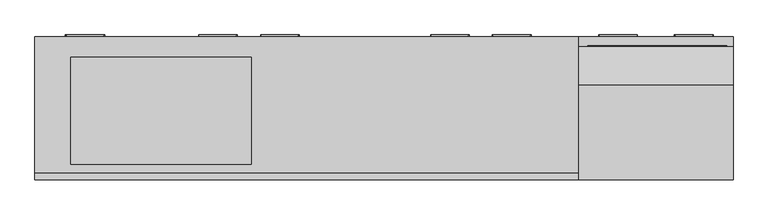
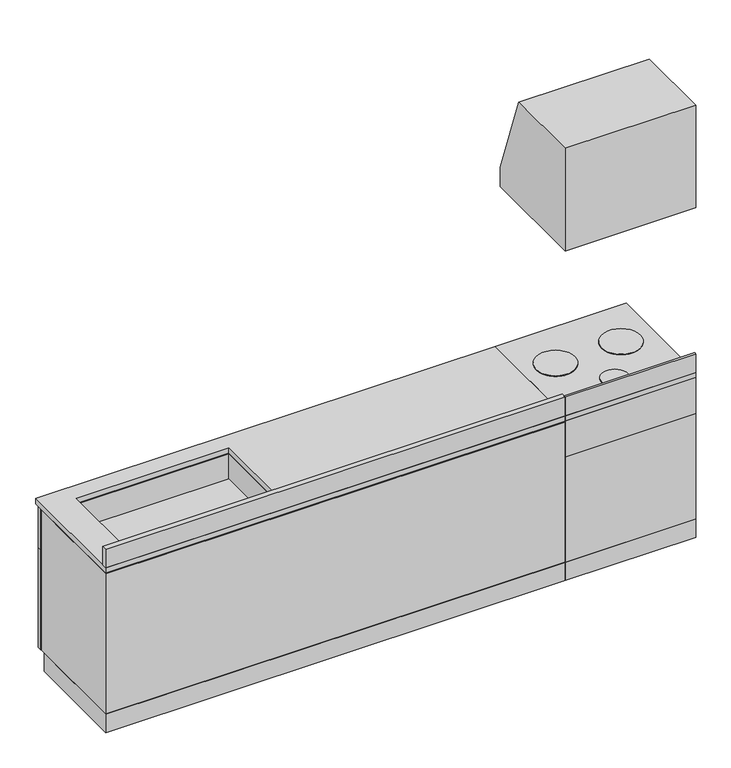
"""IFC4 building model written with IfcOpenShell, lengths in millimetres: flow terminal geometry."""

from ifc_helpers import new_model, si_unit, point, frame, frame_2d, origin, place, context, project, spatial, polyline, circle_curve, ellipse_curve, trimmed, segment, composite_curve, outline, extrude, faceted_brep, source, transform, mapped, element, save
from ifc_brep_helpers import plane_surface, cylinder_surface, advanced_brep


def flow_terminal_4e89506a(model_context):
    return source(origin(), model_context, "Body", "SolidModel", [
        extrude(outline(polyline([(0.0, 1600.0), (0.0, 2099.0082413), (369.4428062, 2099.0082413), (516.4897805, 1695.0), (516.4897805, 1600.0), (0.0, 1600.0)])), frame((-600.0, 0.0, 0.0), z_axis=(1.0, 0.0, 0.0), x_axis=(0.0, 1.0, 0.0)), (0.0, 0.0, 1.0), 600.0),
        extrude(outline(polyline([(-24.5306616, 520.5154649), (-24.5306616, 516.4897805), (-564.5306616, 516.4897805), (-564.5306616, 520.5154649), (-24.5306616, 520.5154649)])), frame((0.0, 0.0, 1619.5443084), z_axis=(0.0, 0.0, 1.0), x_axis=(1.0, 0.0, 0.0)), (0.0, 0.0, 1.0), 40.0),
        extrude(outline(polyline([(0.0, 0.0), (-600.0, 0.0), (-600.0, 9.8381791), (0.0, 9.8381791), (0.0, 0.0)])), frame((0.0, 0.0, 800.0), z_axis=(0.0, 0.0, 1.0), x_axis=(1.0, 0.0, 0.0)), (0.0, 0.0, 1.0), 90.0),
        extrude(outline(polyline([(0.0, 0.0), (-600.0, 0.0), (-600.0, 540.0), (0.0, 540.0), (0.0, 0.0)])), frame((0.0, 0.0, 600.0), z_axis=(0.0, 0.0, 1.0), x_axis=(1.0, 0.0, 0.0)), (0.0, 0.0, 1.0), 175.0),
        faceted_brep([(0.0, 0.0, 600.0), (0.0, 516.4897805, 600.0), (-600.0, 516.4897805, 600.0), (-600.0, 0.0, 600.0), (-600.0, 0.0, 88.5), (-600.0, 540.0, 88.5), (-307.8169644, 540.0, 88.5), (-307.8169644, 516.4897805, 88.5), (-292.8169644, 516.4897805, 88.5), (-292.8169644, 540.0, 88.5), (0.0, 540.0, 88.5), (0.0, 0.0, 88.5), (-600.0, 516.4897805, 590.0), (-600.0, 540.0, 590.0), (-292.8169644, 540.0, 590.0), (0.0, 540.0, 590.0), (-307.8169644, 540.0, 590.0), (0.0, 516.4897805, 590.0), (-307.8169644, 516.4897805, 590.0), (-292.8169644, 516.4897805, 590.0)], [[[0, 1, 2, 3]], [[4, 5, 6, 7, 8, 9, 10, 11]], [[4, 3, 2, 12, 13, 5]], [[9, 14, 15, 10]], [[5, 13, 16, 6]], [[10, 15, 17, 1, 0, 11]], [[3, 4, 11, 0]], [[18, 12, 2, 1, 17, 19, 8, 7]], [[18, 16, 13, 12]], [[17, 15, 14, 19]], [[19, 14, 9, 8]], [[7, 6, 16, 18]]]),
        extrude(outline(composite_curve([segment(trimmed(circle_curve(frame_2d((-300.0, 124.5419688)), 60.0), [point((-360.0, 124.5419688))], [point((-240.0, 124.5419688))], False, "CARTESIAN"), True, "CONTINUOUS"), segment(trimmed(circle_curve(frame_2d((-300.0, 124.5419688)), 60.0), [point((-240.0, 124.5419688))], [point((-360.0, 124.5419688))], False, "CARTESIAN"), True, "CONTINUOUS")], self_intersect=False)), frame((0.0, 0.0, 800.0), z_axis=(0.0, 0.0, 1.0), x_axis=(1.0, 0.0, 0.0)), (0.0, 0.0, 1.0), 3.4559593),
        extrude(outline(composite_curve([segment(trimmed(circle_curve(frame_2d((-152.4677396, 331.6593351)), 89.0934112), [point((-241.5611508, 331.6593351))], [point((-63.3743285, 331.6593351))], False, "CARTESIAN"), True, "CONTINUOUS"), segment(trimmed(circle_curve(frame_2d((-152.4677396, 331.6593351)), 89.0934112), [point((-63.3743285, 331.6593351))], [point((-241.5611508, 331.6593351))], False, "CARTESIAN"), True, "CONTINUOUS")], self_intersect=False)), frame((0.0, 0.0, 800.0), z_axis=(0.0, 0.0, 1.0), x_axis=(1.0, 0.0, 0.0)), (0.0, 0.0, 1.0), 3.4559593),
        extrude(outline(composite_curve([segment(trimmed(circle_curve(frame_2d((-452.4677396, 331.6593351)), 89.0934112), [point((-541.5611508, 331.6593351))], [point((-363.3743285, 331.6593351))], False, "CARTESIAN"), True, "CONTINUOUS"), segment(trimmed(circle_curve(frame_2d((-452.4677396, 331.6593351)), 89.0934112), [point((-363.3743285, 331.6593351))], [point((-541.5611508, 331.6593351))], False, "CARTESIAN"), True, "CONTINUOUS")], self_intersect=False)), frame((0.0, 0.0, 800.0), z_axis=(0.0, 0.0, 1.0), x_axis=(1.0, 0.0, 0.0)), (0.0, 0.0, 1.0), 3.4559593),
        extrude(outline(polyline([(0.0, 0.0), (-600.0, 0.0), (-600.0, 555.0), (0.0, 555.0), (0.0, 0.0)])), frame((0.0, 0.0, 775.0), z_axis=(0.0, 0.0, 1.0), x_axis=(1.0, 0.0, 0.0)), (0.0, 0.0, 1.0), 25.0),
        advanced_brep(
        [(-227.6629348, 537.5962435, 549.478406), (-217.6629348, 537.5962435, 549.478406), (-217.6629348, 552.5962435, 549.478406), (-227.6629348, 562.5962435, 549.478406), (-87.6629348, 552.5962435, 549.478406), (-77.6629348, 562.5962435, 549.478406), (-77.6629348, 537.5962435, 549.478406), (-87.6629348, 537.5962435, 549.478406)],
        [
            (0, 1, circle_curve(frame((-222.6629348, 537.5962435, 549.478406), z_axis=(0.0, -1.0, 0.0), x_axis=(1.0, 0.0, 0.0)), 5.0)),
            (1, 0, circle_curve(frame((-222.6629348, 537.5962435, 549.478406), z_axis=(0.0, -1.0, 0.0), x_axis=(1.0, 0.0, 0.0)), 5.0)),
            (1, 2),
            (2, 3, ellipse_curve(frame((-222.6629348, 557.5962435, 549.478406), z_axis=(-0.7071067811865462, -0.7071067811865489, 0.0), x_axis=(0.707106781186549, -0.707106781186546, 0.0)), 7.0710678, 5.0)),
            (3, 0),
            (3, 2, ellipse_curve(frame((-222.6629348, 557.5962435, 549.478406), z_axis=(-0.7071067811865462, -0.7071067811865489, 0.0), x_axis=(0.707106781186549, -0.707106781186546, 0.0)), 7.0710678, 5.0)),
            (2, 4),
            (4, 5, ellipse_curve(frame((-82.6629348, 557.5962435, 549.478406), z_axis=(-0.7071067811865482, 0.7071067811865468, 0.0), x_axis=(-0.7071067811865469, -0.7071067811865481, 0.0)), 7.0710678, 5.0)),
            (5, 3),
            (5, 4, ellipse_curve(frame((-82.6629348, 557.5962435, 549.478406), z_axis=(-0.7071067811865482, 0.7071067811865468, 0.0), x_axis=(-0.7071067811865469, -0.7071067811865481, 0.0)), 7.0710678, 5.0)),
            (6, 7, circle_curve(frame((-82.6629348, 537.5962435, 549.478406), z_axis=(0.0, -1.0, 0.0), x_axis=(-1.0, 0.0, 0.0)), 5.0)),
            (7, 6, circle_curve(frame((-82.6629348, 537.5962435, 549.478406), z_axis=(0.0, -1.0, 0.0), x_axis=(-1.0, 0.0, 0.0)), 5.0)),
            (4, 7),
            (6, 5),
        ],
        [
            plane_surface(frame((-222.6629348, 537.5962435, 0.0), z_axis=(0.0, -1.0, 0.0), x_axis=(0.0, 0.0, 1.0))),
            cylinder_surface(frame((-222.6629348, 537.5962435, 549.478406), z_axis=(0.0, -1.0, 0.0), x_axis=(1.0, 0.0, 0.0)), 5.0),
            cylinder_surface(frame((-222.6629348, 557.5962435, 549.478406), z_axis=(-1.0, 0.0, 0.0), x_axis=(0.0, -1.0, 0.0)), 5.0),
            plane_surface(frame((-82.6629348, 537.5962435, 0.0), z_axis=(0.0, -1.0, 0.0), x_axis=(0.0, 0.0, 1.0))),
            cylinder_surface(frame((-82.6629348, 557.5962435, 549.478406), z_axis=(0.0, 1.0, 0.0), x_axis=(-1.0, 0.0, 0.0)), 5.0),
        ],
        [
            (0, [[1, 2]]),
            (1, [[3, 4, 5, -2]]),
            (1, [[-5, 6, -3, -1]]),
            (2, [[7, 8, 9, -4]]),
            (2, [[-9, 10, -7, -6]]),
            (3, [[11, 12]]),
            (4, [[13, -11, 14, -8]]),
            (4, [[-14, -12, -13, -10]]),
        ],
    ),
        advanced_brep(
        [(-522.1659599, 537.5962435, 552.9843944), (-512.1659599, 537.5962435, 552.9843944), (-512.1659599, 552.5962435, 552.9843944), (-522.1659599, 562.5962435, 552.9843944), (-382.1659599, 552.5962435, 552.9843944), (-372.1659599, 562.5962435, 552.9843944), (-372.1659599, 537.5962435, 552.9843944), (-382.1659599, 537.5962435, 552.9843944)],
        [
            (0, 1, circle_curve(frame((-517.1659599, 537.5962435, 552.9843944), z_axis=(0.0, -1.0, 0.0), x_axis=(1.0, 0.0, 0.0)), 5.0)),
            (1, 0, circle_curve(frame((-517.1659599, 537.5962435, 552.9843944), z_axis=(0.0, -1.0, 0.0), x_axis=(1.0, 0.0, 0.0)), 5.0)),
            (1, 2),
            (2, 3, ellipse_curve(frame((-517.1659599, 557.5962435, 552.9843944), z_axis=(-0.7071067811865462, -0.7071067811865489, 0.0), x_axis=(0.707106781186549, -0.707106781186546, 0.0)), 7.0710678, 5.0)),
            (3, 0),
            (3, 2, ellipse_curve(frame((-517.1659599, 557.5962435, 552.9843944), z_axis=(-0.7071067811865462, -0.7071067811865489, 0.0), x_axis=(0.707106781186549, -0.707106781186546, 0.0)), 7.0710678, 5.0)),
            (2, 4),
            (4, 5, ellipse_curve(frame((-377.1659599, 557.5962435, 552.9843944), z_axis=(-0.7071067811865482, 0.7071067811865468, 0.0), x_axis=(-0.7071067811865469, -0.7071067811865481, 0.0)), 7.0710678, 5.0)),
            (5, 3),
            (5, 4, ellipse_curve(frame((-377.1659599, 557.5962435, 552.9843944), z_axis=(-0.7071067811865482, 0.7071067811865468, 0.0), x_axis=(-0.7071067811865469, -0.7071067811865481, 0.0)), 7.0710678, 5.0)),
            (6, 7, circle_curve(frame((-377.1659599, 537.5962435, 552.9843944), z_axis=(0.0, -1.0, 0.0), x_axis=(-1.0, 0.0, 0.0)), 5.0)),
            (7, 6, circle_curve(frame((-377.1659599, 537.5962435, 552.9843944), z_axis=(0.0, -1.0, 0.0), x_axis=(-1.0, 0.0, 0.0)), 5.0)),
            (4, 7),
            (6, 5),
        ],
        [
            plane_surface(frame((-517.1659599, 537.5962435, 0.0), z_axis=(0.0, -1.0, 0.0), x_axis=(0.0, 0.0, 1.0))),
            cylinder_surface(frame((-517.1659599, 537.5962435, 552.9843944), z_axis=(0.0, -1.0, 0.0), x_axis=(1.0, 0.0, 0.0)), 5.0),
            cylinder_surface(frame((-517.1659599, 557.5962435, 552.9843944), z_axis=(-1.0, 0.0, 0.0), x_axis=(0.0, -1.0, 0.0)), 5.0),
            plane_surface(frame((-377.1659599, 537.5962435, 0.0), z_axis=(0.0, -1.0, 0.0), x_axis=(0.0, 0.0, 1.0))),
            cylinder_surface(frame((-377.1659599, 557.5962435, 552.9843944), z_axis=(0.0, 1.0, 0.0), x_axis=(-1.0, 0.0, 0.0)), 5.0),
        ],
        [
            (0, [[1, 2]]),
            (1, [[3, 4, 5, -2]]),
            (1, [[-5, 6, -3, -1]]),
            (2, [[7, 8, 9, -4]]),
            (2, [[-9, 10, -7, -6]]),
            (3, [[11, 12]]),
            (4, [[13, -11, 14, -8]]),
            (4, [[-14, -12, -13, -10]]),
        ],
    ),
        extrude(outline(polyline([(0.0, 0.0), (-600.0, 0.0), (-600.0, 490.0), (0.0, 490.0), (0.0, 0.0)])), frame((0.0, 0.0, -0.5), z_axis=(0.0, 0.0, 1.0), x_axis=(1.0, 0.0, 0.0)), (0.0, 0.0, 1.0), 89.0),
        extrude(outline(polyline([(-2710.0, 0.0), (-2710.0, 25.0), (-600.0, 25.0), (-600.0, 0.0), (-2710.0, 0.0)])), frame((0.0, 0.0, 800.0), z_axis=(0.0, 0.0, 1.0), x_axis=(1.0, 0.0, 0.0)), (0.0, 0.0, 1.0), 90.0),
        extrude(outline(polyline([(-2710.0, 0.0), (-2710.0, 490.0), (-600.0, 490.0), (-600.0, 0.0), (-2710.0, 0.0)])), frame((0.0, 0.0, -0.5), z_axis=(0.0, 0.0, 1.0), x_axis=(1.0, 0.0, 0.0)), (0.0, 0.0, 1.0), 89.0),
        extrude(outline(polyline([(-1877.9, 516.4897805), (-1877.9, 536.4897805), (-1432.9, 536.4897805), (-1432.9, 516.4897805), (-1877.9, 516.4897805)])), frame((0.0, 0.0, 89.0), z_axis=(0.0, 0.0, 1.0), x_axis=(1.0, 0.0, 0.0)), (0.0, 0.0, 1.0), 681.0),
        extrude(outline(polyline([(-2328.4, 516.4897805), (-2328.4, 536.4897805), (-1881.0543583, 536.4897805), (-1881.0543583, 516.4897805), (-2328.4, 516.4897805)])), frame((0.0, 0.0, 89.0), z_axis=(0.0, 0.0, 1.0), x_axis=(1.0, 0.0, 0.0)), (0.0, 0.0, 1.0), 681.0),
        extrude(outline(polyline([(-2710.0, 536.4897805), (-2332.9, 536.4897805), (-2332.9, 516.4897805), (-2710.0, 516.4897805), (-2710.0, 536.4897805)])), frame((0.0, 0.0, 575.0), z_axis=(0.0, 0.0, 1.0), x_axis=(1.0, 0.0, 0.0)), (0.0, 0.0, 1.0), 195.0),
        extrude(outline(polyline([(-2710.0, 536.4897805), (-2332.9, 536.4897805), (-2332.9, 516.4897805), (-2710.0, 516.4897805), (-2710.0, 536.4897805)])), frame((0.0, 0.0, 89.5), z_axis=(0.0, 0.0, 1.0), x_axis=(1.0, 0.0, 0.0)), (0.0, 0.0, 1.0), 484.284389),
        advanced_brep(
        [(-1684.3239278, 537.5962435, 714.2598605), (-1694.3239278, 537.5962435, 714.2598605), (-1684.3239278, 562.5962435, 714.2598605), (-1694.3239278, 552.5962435, 714.2598605), (-1834.3239278, 562.5962435, 714.2598605), (-1824.3239278, 552.5962435, 714.2598605), (-1834.3239278, 537.5962435, 714.2598605), (-1824.3239278, 537.5962435, 714.2598605)],
        [
            (0, 1, circle_curve(frame((-1689.3239278, 537.5962435, 714.2598605), z_axis=(0.0, -1.0, 0.0), x_axis=(-1.0, 0.0, 0.0)), 5.0)),
            (1, 0, circle_curve(frame((-1689.3239278, 537.5962435, 714.2598605), z_axis=(0.0, -1.0, 0.0), x_axis=(-1.0, 0.0, 0.0)), 5.0)),
            (0, 2),
            (2, 3, ellipse_curve(frame((-1689.3239278, 557.5962435, 714.2598605), z_axis=(0.7071067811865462, -0.7071067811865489, 0.0), x_axis=(-0.707106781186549, -0.707106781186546, 0.0)), 7.0710678, 5.0)),
            (3, 1),
            (3, 2, ellipse_curve(frame((-1689.3239278, 557.5962435, 714.2598605), z_axis=(0.7071067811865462, -0.7071067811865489, 0.0), x_axis=(-0.707106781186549, -0.707106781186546, 0.0)), 7.0710678, 5.0)),
            (2, 4),
            (4, 5, ellipse_curve(frame((-1829.3239278, 557.5962435, 714.2598605), z_axis=(0.7071067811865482, 0.7071067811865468, 0.0), x_axis=(0.7071067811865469, -0.7071067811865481, 0.0)), 7.0710678, 5.0)),
            (5, 3),
            (5, 4, ellipse_curve(frame((-1829.3239278, 557.5962435, 714.2598605), z_axis=(0.7071067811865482, 0.7071067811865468, 0.0), x_axis=(0.7071067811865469, -0.7071067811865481, 0.0)), 7.0710678, 5.0)),
            (6, 7, circle_curve(frame((-1829.3239278, 537.5962435, 714.2598605), z_axis=(0.0, -1.0, 0.0), x_axis=(1.0, 0.0, 0.0)), 5.0)),
            (7, 6, circle_curve(frame((-1829.3239278, 537.5962435, 714.2598605), z_axis=(0.0, -1.0, 0.0), x_axis=(1.0, 0.0, 0.0)), 5.0)),
            (4, 6),
            (7, 5),
        ],
        [
            plane_surface(frame((-1689.3239278, 537.5962435, 0.0), z_axis=(0.0, -1.0, 0.0), x_axis=(0.0, 0.0, 1.0))),
            cylinder_surface(frame((-1689.3239278, 537.5962435, 714.2598605), z_axis=(0.0, -1.0, 0.0), x_axis=(-1.0, 0.0, 0.0)), 5.0),
            cylinder_surface(frame((-1689.3239278, 557.5962435, 714.2598605), z_axis=(1.0, 0.0, 0.0), x_axis=(0.0, -1.0, 0.0)), 5.0),
            plane_surface(frame((-1829.3239278, 537.5962435, 0.0), z_axis=(0.0, -1.0, 0.0), x_axis=(0.0, 0.0, 1.0))),
            cylinder_surface(frame((-1829.3239278, 557.5962435, 714.2598605), z_axis=(0.0, 1.0, 0.0), x_axis=(1.0, 0.0, 0.0)), 5.0),
        ],
        [
            (0, [[1, 2]]),
            (1, [[-1, 3, 4, 5]]),
            (1, [[-2, -5, 6, -3]]),
            (2, [[-4, 7, 8, 9]]),
            (2, [[-6, -9, 10, -7]]),
            (3, [[11, 12]]),
            (4, [[-8, 13, -12, 14]]),
            (4, [[-10, -14, -11, -13]]),
        ],
    ),
        advanced_brep(
        [(-1924.3239278, 537.5962435, 714.2598605), (-1934.3239278, 537.5962435, 714.2598605), (-1924.3239278, 562.5962435, 714.2598605), (-1934.3239278, 552.5962435, 714.2598605), (-2074.3239278, 562.5962435, 714.2598605), (-2064.3239278, 552.5962435, 714.2598605), (-2074.3239278, 537.5962435, 714.2598605), (-2064.3239278, 537.5962435, 714.2598605)],
        [
            (0, 1, circle_curve(frame((-1929.3239278, 537.5962435, 714.2598605), z_axis=(0.0, -1.0, 0.0), x_axis=(-1.0, 0.0, 0.0)), 5.0)),
            (1, 0, circle_curve(frame((-1929.3239278, 537.5962435, 714.2598605), z_axis=(0.0, -1.0, 0.0), x_axis=(-1.0, 0.0, 0.0)), 5.0)),
            (0, 2),
            (2, 3, ellipse_curve(frame((-1929.3239278, 557.5962435, 714.2598605), z_axis=(0.7071067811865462, -0.7071067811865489, 0.0), x_axis=(-0.707106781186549, -0.707106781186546, 0.0)), 7.0710678, 5.0)),
            (3, 1),
            (3, 2, ellipse_curve(frame((-1929.3239278, 557.5962435, 714.2598605), z_axis=(0.7071067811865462, -0.7071067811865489, 0.0), x_axis=(-0.707106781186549, -0.707106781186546, 0.0)), 7.0710678, 5.0)),
            (2, 4),
            (4, 5, ellipse_curve(frame((-2069.3239278, 557.5962435, 714.2598605), z_axis=(0.7071067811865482, 0.7071067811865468, 0.0), x_axis=(0.7071067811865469, -0.7071067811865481, 0.0)), 7.0710678, 5.0)),
            (5, 3),
            (5, 4, ellipse_curve(frame((-2069.3239278, 557.5962435, 714.2598605), z_axis=(0.7071067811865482, 0.7071067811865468, 0.0), x_axis=(0.7071067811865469, -0.7071067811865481, 0.0)), 7.0710678, 5.0)),
            (6, 7, circle_curve(frame((-2069.3239278, 537.5962435, 714.2598605), z_axis=(0.0, -1.0, 0.0), x_axis=(1.0, 0.0, 0.0)), 5.0)),
            (7, 6, circle_curve(frame((-2069.3239278, 537.5962435, 714.2598605), z_axis=(0.0, -1.0, 0.0), x_axis=(1.0, 0.0, 0.0)), 5.0)),
            (4, 6),
            (7, 5),
        ],
        [
            plane_surface(frame((-1929.3239278, 537.5962435, 0.0), z_axis=(0.0, -1.0, 0.0), x_axis=(0.0, 0.0, 1.0))),
            cylinder_surface(frame((-1929.3239278, 537.5962435, 714.2598605), z_axis=(0.0, -1.0, 0.0), x_axis=(-1.0, 0.0, 0.0)), 5.0),
            cylinder_surface(frame((-1929.3239278, 557.5962435, 714.2598605), z_axis=(1.0, 0.0, 0.0), x_axis=(0.0, -1.0, 0.0)), 5.0),
            plane_surface(frame((-2069.3239278, 537.5962435, 0.0), z_axis=(0.0, -1.0, 0.0), x_axis=(0.0, 0.0, 1.0))),
            cylinder_surface(frame((-2069.3239278, 557.5962435, 714.2598605), z_axis=(0.0, 1.0, 0.0), x_axis=(1.0, 0.0, 0.0)), 5.0),
        ],
        [
            (0, [[1, 2]]),
            (1, [[-1, 3, 4, 5]]),
            (1, [[-2, -5, 6, -3]]),
            (2, [[-4, 7, 8, 9]]),
            (2, [[-6, -9, 10, -7]]),
            (3, [[11, 12]]),
            (4, [[-8, 13, -12, 14]]),
            (4, [[-10, -14, -11, -13]]),
        ],
    ),
        advanced_brep(
        [(-2439.3239278, 537.5962435, 714.2598605), (-2449.3239278, 537.5962435, 714.2598605), (-2439.3239278, 562.5962435, 714.2598605), (-2449.3239278, 552.5962435, 714.2598605), (-2589.3239278, 562.5962435, 714.2598605), (-2579.3239278, 552.5962435, 714.2598605), (-2589.3239278, 537.5962435, 714.2598605), (-2579.3239278, 537.5962435, 714.2598605)],
        [
            (0, 1, circle_curve(frame((-2444.3239278, 537.5962435, 714.2598605), z_axis=(0.0, -1.0, 0.0), x_axis=(-1.0, 0.0, 0.0)), 5.0)),
            (1, 0, circle_curve(frame((-2444.3239278, 537.5962435, 714.2598605), z_axis=(0.0, -1.0, 0.0), x_axis=(-1.0, 0.0, 0.0)), 5.0)),
            (0, 2),
            (2, 3, ellipse_curve(frame((-2444.3239278, 557.5962435, 714.2598605), z_axis=(0.7071067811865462, -0.7071067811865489, 0.0), x_axis=(-0.707106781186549, -0.707106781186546, 0.0)), 7.0710678, 5.0)),
            (3, 1),
            (3, 2, ellipse_curve(frame((-2444.3239278, 557.5962435, 714.2598605), z_axis=(0.7071067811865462, -0.7071067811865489, 0.0), x_axis=(-0.707106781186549, -0.707106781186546, 0.0)), 7.0710678, 5.0)),
            (2, 4),
            (4, 5, ellipse_curve(frame((-2584.3239278, 557.5962435, 714.2598605), z_axis=(0.7071067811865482, 0.7071067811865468, 0.0), x_axis=(0.7071067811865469, -0.7071067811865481, 0.0)), 7.0710678, 5.0)),
            (5, 3),
            (5, 4, ellipse_curve(frame((-2584.3239278, 557.5962435, 714.2598605), z_axis=(0.7071067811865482, 0.7071067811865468, 0.0), x_axis=(0.7071067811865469, -0.7071067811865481, 0.0)), 7.0710678, 5.0)),
            (6, 7, circle_curve(frame((-2584.3239278, 537.5962435, 714.2598605), z_axis=(0.0, -1.0, 0.0), x_axis=(1.0, 0.0, 0.0)), 5.0)),
            (7, 6, circle_curve(frame((-2584.3239278, 537.5962435, 714.2598605), z_axis=(0.0, -1.0, 0.0), x_axis=(1.0, 0.0, 0.0)), 5.0)),
            (4, 6),
            (7, 5),
        ],
        [
            plane_surface(frame((-2444.3239278, 537.5962435, 0.0), z_axis=(0.0, -1.0, 0.0), x_axis=(0.0, 0.0, 1.0))),
            cylinder_surface(frame((-2444.3239278, 537.5962435, 714.2598605), z_axis=(0.0, -1.0, 0.0), x_axis=(-1.0, 0.0, 0.0)), 5.0),
            cylinder_surface(frame((-2444.3239278, 557.5962435, 714.2598605), z_axis=(1.0, 0.0, 0.0), x_axis=(0.0, -1.0, 0.0)), 5.0),
            plane_surface(frame((-2584.3239278, 537.5962435, 0.0), z_axis=(0.0, -1.0, 0.0), x_axis=(0.0, 0.0, 1.0))),
            cylinder_surface(frame((-2584.3239278, 557.5962435, 714.2598605), z_axis=(0.0, 1.0, 0.0), x_axis=(1.0, 0.0, 0.0)), 5.0),
        ],
        [
            (0, [[1, 2]]),
            (1, [[-1, 3, 4, 5]]),
            (1, [[-2, -5, 6, -3]]),
            (2, [[-4, 7, 8, 9]]),
            (2, [[-6, -9, 10, -7]]),
            (3, [[11, 12]]),
            (4, [[-8, 13, -12, 14]]),
            (4, [[-10, -14, -11, -13]]),
        ],
    ),
        advanced_brep(
        [(-2441.3479102, 537.5962435, 514.8721474), (-2451.3479102, 537.5962435, 514.8721474), (-2441.3479102, 562.5962435, 514.8721474), (-2451.3479102, 552.5962435, 514.8721474), (-2591.3479102, 562.5962435, 514.8721474), (-2581.3479102, 552.5962435, 514.8721474), (-2591.3479102, 537.5962435, 514.8721474), (-2581.3479102, 537.5962435, 514.8721474)],
        [
            (0, 1, circle_curve(frame((-2446.3479102, 537.5962435, 514.8721474), z_axis=(0.0, -1.0, 0.0), x_axis=(-1.0, 0.0, 0.0)), 5.0)),
            (1, 0, circle_curve(frame((-2446.3479102, 537.5962435, 514.8721474), z_axis=(0.0, -1.0, 0.0), x_axis=(-1.0, 0.0, 0.0)), 5.0)),
            (0, 2),
            (2, 3, ellipse_curve(frame((-2446.3479102, 557.5962435, 514.8721474), z_axis=(0.7071067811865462, -0.7071067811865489, 0.0), x_axis=(-0.707106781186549, -0.707106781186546, 0.0)), 7.0710678, 5.0)),
            (3, 1),
            (3, 2, ellipse_curve(frame((-2446.3479102, 557.5962435, 514.8721474), z_axis=(0.7071067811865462, -0.7071067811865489, 0.0), x_axis=(-0.707106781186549, -0.707106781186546, 0.0)), 7.0710678, 5.0)),
            (2, 4),
            (4, 5, ellipse_curve(frame((-2586.3479102, 557.5962435, 514.8721474), z_axis=(0.7071067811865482, 0.7071067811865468, 0.0), x_axis=(0.7071067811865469, -0.7071067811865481, 0.0)), 7.0710678, 5.0)),
            (5, 3),
            (5, 4, ellipse_curve(frame((-2586.3479102, 557.5962435, 514.8721474), z_axis=(0.7071067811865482, 0.7071067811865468, 0.0), x_axis=(0.7071067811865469, -0.7071067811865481, 0.0)), 7.0710678, 5.0)),
            (6, 7, circle_curve(frame((-2586.3479102, 537.5962435, 514.8721474), z_axis=(0.0, -1.0, 0.0), x_axis=(1.0, 0.0, 0.0)), 5.0)),
            (7, 6, circle_curve(frame((-2586.3479102, 537.5962435, 514.8721474), z_axis=(0.0, -1.0, 0.0), x_axis=(1.0, 0.0, 0.0)), 5.0)),
            (4, 6),
            (7, 5),
        ],
        [
            plane_surface(frame((-2446.3479102, 537.5962435, -199.3877131), z_axis=(0.0, -1.0, 0.0), x_axis=(0.0, 0.0, 1.0))),
            cylinder_surface(frame((-2446.3479102, 537.5962435, 514.8721474), z_axis=(0.0, -1.0, 0.0), x_axis=(-1.0, 0.0, 0.0)), 5.0),
            cylinder_surface(frame((-2446.3479102, 557.5962435, 514.8721474), z_axis=(1.0, 0.0, 0.0), x_axis=(0.0, -1.0, 0.0)), 5.0),
            plane_surface(frame((-2586.3479102, 537.5962435, -199.3877131), z_axis=(0.0, -1.0, 0.0), x_axis=(0.0, 0.0, 1.0))),
            cylinder_surface(frame((-2586.3479102, 557.5962435, 514.8721474), z_axis=(0.0, 1.0, 0.0), x_axis=(1.0, 0.0, 0.0)), 5.0),
        ],
        [
            (0, [[1, 2]]),
            (1, [[-1, 3, 4, 5]]),
            (1, [[-2, -5, 6, -3]]),
            (2, [[-4, 7, 8, 9]]),
            (2, [[-6, -9, 10, -7]]),
            (3, [[11, 12]]),
            (4, [[-8, 13, -12, 14]]),
            (4, [[-10, -14, -11, -13]]),
        ],
    ),
        extrude(outline(polyline([(-2710.0, 0.0), (-2710.0, 555.0), (-600.0, 555.0), (-600.0, 0.0), (-2710.0, 0.0)]), holes=[polyline([(-2570.5, 61.4897805), (-1870.5, 61.4897805), (-1870.5, 476.3747196), (-2570.5, 476.3747196), (-2570.5, 61.4897805)])]), frame((0.0, 0.0, 775.0), z_axis=(0.0, 0.0, 1.0), x_axis=(1.0, 0.0, 0.0)), (0.0, 0.0, 1.0), 25.0),
        extrude(outline(polyline([(-2710.0, 0.0), (-2710.0, 508.8242978), (-600.0, 508.8242978), (-600.0, 0.0), (-2710.0, 0.0)]), holes=[polyline([(-2675.8267278, 25.0), (-1259.0724026, 25.0), (-1259.0724026, 490.0), (-2675.8267278, 490.0), (-2675.8267278, 25.0)])]), frame((0.0, 0.0, 90.0), z_axis=(0.0, 0.0, 1.0), x_axis=(1.0, 0.0, 0.0)), (0.0, 0.0, 1.0), 680.0),
        faceted_brep([(-2675.8267278, 25.0, 770.0), (-600.0, 25.0, 770.0), (-600.0, 490.0, 770.0), (-2675.8267278, 490.0, 770.0), (-1870.5, 61.4897805, 770.0), (-2570.5, 61.4897805, 770.0), (-2570.5, 476.3747196, 770.0), (-1870.5, 476.3747196, 770.0), (-2675.8267278, 25.0, 481.2861972), (-2675.8267278, 490.0, 481.2861972), (-600.0, 490.0, 481.2861972), (-600.0, 25.0, 481.2861972), (-2570.5, 61.4897805, 650.0), (-1870.5, 61.4897805, 650.0), (-1870.5, 476.3747196, 650.0), (-2570.5, 476.3747196, 650.0)], [[[0, 1, 2, 3], [4, 5, 6, 7]], [[8, 9, 10, 11]], [[1, 0, 8, 11]], [[2, 1, 11, 10]], [[3, 2, 10, 9]], [[0, 3, 9, 8]], [[12, 13, 14, 15]], [[13, 12, 5, 4]], [[14, 13, 4, 7]], [[15, 14, 7, 6]], [[12, 15, 6, 5]]]),
        extrude(outline(polyline([(-977.9, 516.4897805), (-977.9, 536.4897805), (-600.0, 536.4897805), (-600.0, 516.4897805), (-977.9, 516.4897805)])), frame((0.0, 0.0, 89.0), z_axis=(0.0, 0.0, 1.0), x_axis=(1.0, 0.0, 0.0)), (0.0, 0.0, 1.0), 681.0),
        extrude(outline(polyline([(-1428.4, 516.4897805), (-1428.4, 536.4897805), (-981.0543583, 536.4897805), (-981.0543583, 516.4897805), (-1428.4, 516.4897805)])), frame((0.0, 0.0, 89.0), z_axis=(0.0, 0.0, 1.0), x_axis=(1.0, 0.0, 0.0)), (0.0, 0.0, 1.0), 681.0),
        advanced_brep(
        [(-784.3239278, 537.5962435, 714.2598605), (-794.3239278, 537.5962435, 714.2598605), (-784.3239278, 562.5962435, 714.2598605), (-794.3239278, 552.5962435, 714.2598605), (-934.3239278, 562.5962435, 714.2598605), (-924.3239278, 552.5962435, 714.2598605), (-934.3239278, 537.5962435, 714.2598605), (-924.3239278, 537.5962435, 714.2598605)],
        [
            (0, 1, circle_curve(frame((-789.3239278, 537.5962435, 714.2598605), z_axis=(0.0, -1.0, 0.0), x_axis=(-1.0, 0.0, 0.0)), 5.0)),
            (1, 0, circle_curve(frame((-789.3239278, 537.5962435, 714.2598605), z_axis=(0.0, -1.0, 0.0), x_axis=(-1.0, 0.0, 0.0)), 5.0)),
            (0, 2),
            (2, 3, ellipse_curve(frame((-789.3239278, 557.5962435, 714.2598605), z_axis=(0.7071067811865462, -0.7071067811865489, 0.0), x_axis=(-0.707106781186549, -0.707106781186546, 0.0)), 7.0710678, 5.0)),
            (3, 1),
            (3, 2, ellipse_curve(frame((-789.3239278, 557.5962435, 714.2598605), z_axis=(0.7071067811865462, -0.7071067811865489, 0.0), x_axis=(-0.707106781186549, -0.707106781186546, 0.0)), 7.0710678, 5.0)),
            (2, 4),
            (4, 5, ellipse_curve(frame((-929.3239278, 557.5962435, 714.2598605), z_axis=(0.7071067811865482, 0.7071067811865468, 0.0), x_axis=(0.7071067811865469, -0.7071067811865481, 0.0)), 7.0710678, 5.0)),
            (5, 3),
            (5, 4, ellipse_curve(frame((-929.3239278, 557.5962435, 714.2598605), z_axis=(0.7071067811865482, 0.7071067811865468, 0.0), x_axis=(0.7071067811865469, -0.7071067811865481, 0.0)), 7.0710678, 5.0)),
            (6, 7, circle_curve(frame((-929.3239278, 537.5962435, 714.2598605), z_axis=(0.0, -1.0, 0.0), x_axis=(1.0, 0.0, 0.0)), 5.0)),
            (7, 6, circle_curve(frame((-929.3239278, 537.5962435, 714.2598605), z_axis=(0.0, -1.0, 0.0), x_axis=(1.0, 0.0, 0.0)), 5.0)),
            (4, 6),
            (7, 5),
        ],
        [
            plane_surface(frame((-789.3239278, 537.5962435, 0.0), z_axis=(0.0, -1.0, 0.0), x_axis=(0.0, 0.0, 1.0))),
            cylinder_surface(frame((-789.3239278, 537.5962435, 714.2598605), z_axis=(0.0, -1.0, 0.0), x_axis=(-1.0, 0.0, 0.0)), 5.0),
            cylinder_surface(frame((-789.3239278, 557.5962435, 714.2598605), z_axis=(1.0, 0.0, 0.0), x_axis=(0.0, -1.0, 0.0)), 5.0),
            plane_surface(frame((-929.3239278, 537.5962435, 0.0), z_axis=(0.0, -1.0, 0.0), x_axis=(0.0, 0.0, 1.0))),
            cylinder_surface(frame((-929.3239278, 557.5962435, 714.2598605), z_axis=(0.0, 1.0, 0.0), x_axis=(1.0, 0.0, 0.0)), 5.0),
        ],
        [
            (0, [[1, 2]]),
            (1, [[-1, 3, 4, 5]]),
            (1, [[-2, -5, 6, -3]]),
            (2, [[-4, 7, 8, 9]]),
            (2, [[-6, -9, 10, -7]]),
            (3, [[11, 12]]),
            (4, [[-8, 13, -12, 14]]),
            (4, [[-10, -14, -11, -13]]),
        ],
    ),
        advanced_brep(
        [(-1024.3239278, 537.5962435, 714.2598605), (-1034.3239278, 537.5962435, 714.2598605), (-1024.3239278, 562.5962435, 714.2598605), (-1034.3239278, 552.5962435, 714.2598605), (-1174.3239278, 562.5962435, 714.2598605), (-1164.3239278, 552.5962435, 714.2598605), (-1174.3239278, 537.5962435, 714.2598605), (-1164.3239278, 537.5962435, 714.2598605)],
        [
            (0, 1, circle_curve(frame((-1029.3239278, 537.5962435, 714.2598605), z_axis=(0.0, -1.0, 0.0), x_axis=(-1.0, 0.0, 0.0)), 5.0)),
            (1, 0, circle_curve(frame((-1029.3239278, 537.5962435, 714.2598605), z_axis=(0.0, -1.0, 0.0), x_axis=(-1.0, 0.0, 0.0)), 5.0)),
            (0, 2),
            (2, 3, ellipse_curve(frame((-1029.3239278, 557.5962435, 714.2598605), z_axis=(0.7071067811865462, -0.7071067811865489, 0.0), x_axis=(-0.707106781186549, -0.707106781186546, 0.0)), 7.0710678, 5.0)),
            (3, 1),
            (3, 2, ellipse_curve(frame((-1029.3239278, 557.5962435, 714.2598605), z_axis=(0.7071067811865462, -0.7071067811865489, 0.0), x_axis=(-0.707106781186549, -0.707106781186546, 0.0)), 7.0710678, 5.0)),
            (2, 4),
            (4, 5, ellipse_curve(frame((-1169.3239278, 557.5962435, 714.2598605), z_axis=(0.7071067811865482, 0.7071067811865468, 0.0), x_axis=(0.7071067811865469, -0.7071067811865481, 0.0)), 7.0710678, 5.0)),
            (5, 3),
            (5, 4, ellipse_curve(frame((-1169.3239278, 557.5962435, 714.2598605), z_axis=(0.7071067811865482, 0.7071067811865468, 0.0), x_axis=(0.7071067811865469, -0.7071067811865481, 0.0)), 7.0710678, 5.0)),
            (6, 7, circle_curve(frame((-1169.3239278, 537.5962435, 714.2598605), z_axis=(0.0, -1.0, 0.0), x_axis=(1.0, 0.0, 0.0)), 5.0)),
            (7, 6, circle_curve(frame((-1169.3239278, 537.5962435, 714.2598605), z_axis=(0.0, -1.0, 0.0), x_axis=(1.0, 0.0, 0.0)), 5.0)),
            (4, 6),
            (7, 5),
        ],
        [
            plane_surface(frame((-1029.3239278, 537.5962435, 0.0), z_axis=(0.0, -1.0, 0.0), x_axis=(0.0, 0.0, 1.0))),
            cylinder_surface(frame((-1029.3239278, 537.5962435, 714.2598605), z_axis=(0.0, -1.0, 0.0), x_axis=(-1.0, 0.0, 0.0)), 5.0),
            cylinder_surface(frame((-1029.3239278, 557.5962435, 714.2598605), z_axis=(1.0, 0.0, 0.0), x_axis=(0.0, -1.0, 0.0)), 5.0),
            plane_surface(frame((-1169.3239278, 537.5962435, 0.0), z_axis=(0.0, -1.0, 0.0), x_axis=(0.0, 0.0, 1.0))),
            cylinder_surface(frame((-1169.3239278, 557.5962435, 714.2598605), z_axis=(0.0, 1.0, 0.0), x_axis=(1.0, 0.0, 0.0)), 5.0),
        ],
        [
            (0, [[1, 2]]),
            (1, [[-1, 3, 4, 5]]),
            (1, [[-2, -5, 6, -3]]),
            (2, [[-4, 7, 8, 9]]),
            (2, [[-6, -9, 10, -7]]),
            (3, [[11, 12]]),
            (4, [[-8, 13, -12, 14]]),
            (4, [[-10, -14, -11, -13]]),
        ],
    ),
    ])


if __name__ == "__main__":
    model = new_model("IFC4")
    model_context = context("Model", 3, world=origin())
    ifc_project = project(units=[si_unit("LENGTHUNIT", "METRE", prefix="MILLI")], contexts=[model_context])
    site = spatial("IfcSite", under=ifc_project)
    building = spatial("IfcBuilding", under=site)
    placement = place(None, origin())
    flow_terminal_shape = flow_terminal_4e89506a(model_context)
    element("IfcFlowTerminal", 1, ObjectType="システムキッチンIH : システムキッチンIH\u3000W2710", at=placement, inside=building, context=model_context, shape_type="MappedRepresentation", body=[
        mapped(flow_terminal_shape, transform((0.0, 0.0, 0.0), x_axis=(1.0, 0.0, 0.0), y_axis=(0.0, 1.0, 0.0), z_axis=(0.0, 0.0, 1.0))),
    ])
    save(model, "model.ifc")
